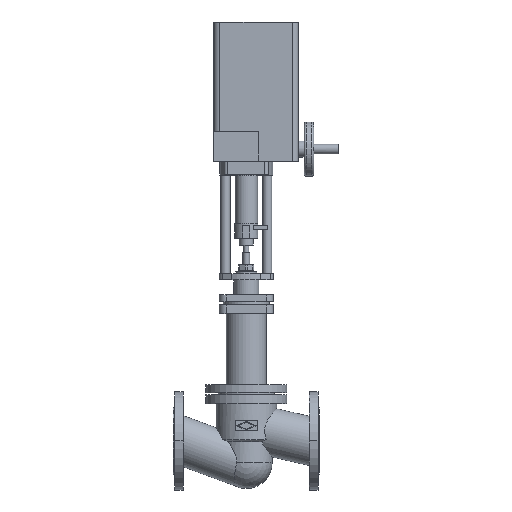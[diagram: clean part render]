
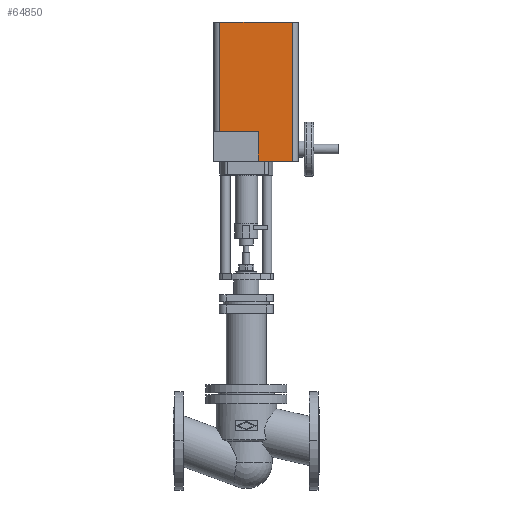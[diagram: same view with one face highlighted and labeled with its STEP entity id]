
A CAD part, top view. The second image highlights one B-rep face of the part: STEP entity #64850.
In plain terms, the highlighted planar face has unit normal (0, 0, 1).
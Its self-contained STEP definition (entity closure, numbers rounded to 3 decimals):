
#63280=CARTESIAN_POINT('',(204.,670.2,102.5));
#63290=VERTEX_POINT('',#63280);
#63340=CARTESIAN_POINT('',(111.5,670.2,102.5));
#63350=DIRECTION('',(1.,0.,0.));
#63360=VECTOR('',#63350,1.);
#63370=LINE('',#63340,#63360);
#63380=CARTESIAN_POINT('',(285.5,670.2,102.5));
#63390=VERTEX_POINT('',#63380);
#63400=EDGE_CURVE('',#63290,#63390,#63370,.T.);
#64190=CARTESIAN_POINT('',(111.5,1003.7,102.5));
#64200=VERTEX_POINT('',#64190);
#64230=CARTESIAN_POINT('',(111.5,670.2,102.5));
#64240=DIRECTION('',(0.,1.,0.));
#64250=VECTOR('',#64240,1.);
#64260=LINE('',#64230,#64250);
#64270=CARTESIAN_POINT('',(111.5,741.7,102.5));
#64280=VERTEX_POINT('',#64270);
#64290=EDGE_CURVE('',#64280,#64200,#64260,.T.);
#64480=CARTESIAN_POINT('',(285.5,670.2,102.5));
#64490=DIRECTION('',(0.,0.,1.));
#64500=DIRECTION('',(1.,0.,0.));
#64510=AXIS2_PLACEMENT_3D('',#64480,#64490,#64500);
#64520=PLANE('',#64510);
#64530=ORIENTED_EDGE('',*,*,#64290,.F.);
#64540=CARTESIAN_POINT('',(111.5,1003.7,102.5));
#64550=DIRECTION('',(-1.,0.,0.));
#64560=VECTOR('',#64550,1.);
#64570=LINE('',#64540,#64560);
#64580=CARTESIAN_POINT('',(285.5,1003.7,102.5));
#64590=VERTEX_POINT('',#64580);
#64600=EDGE_CURVE('',#64590,#64200,#64570,.T.);
#64610=ORIENTED_EDGE('',*,*,#64600,.T.);
#64620=CARTESIAN_POINT('',(285.5,670.2,102.5));
#64630=DIRECTION('',(0.,-1.,0.));
#64640=VECTOR('',#64630,1.);
#64650=LINE('',#64620,#64640);
#64660=EDGE_CURVE('',#64590,#63390,#64650,.T.);
#64670=ORIENTED_EDGE('',*,*,#64660,.F.);
#64680=ORIENTED_EDGE('',*,*,#63400,.T.);
#64690=CARTESIAN_POINT('',(204.,670.2,102.5));
#64700=DIRECTION('',(0.,-1.,0.));
#64710=VECTOR('',#64700,1.);
#64720=LINE('',#64690,#64710);
#64730=CARTESIAN_POINT('',(204.,741.7,102.5));
#64740=VERTEX_POINT('',#64730);
#64750=EDGE_CURVE('',#64740,#63290,#64720,.T.);
#64760=ORIENTED_EDGE('',*,*,#64750,.T.);
#64770=CARTESIAN_POINT('',(230.25,741.7,102.5));
#64780=DIRECTION('',(1.,0.,0.));
#64790=VECTOR('',#64780,1.);
#64800=LINE('',#64770,#64790);
#64810=EDGE_CURVE('',#64280,#64740,#64800,.T.);
#64820=ORIENTED_EDGE('',*,*,#64810,.T.);
#64830=EDGE_LOOP('',(#64820,#64760,#64680,#64670,#64610,#64530));
#64840=FACE_OUTER_BOUND('',#64830,.T.);
#64850=ADVANCED_FACE('',(#64840),#64520,.T.);
